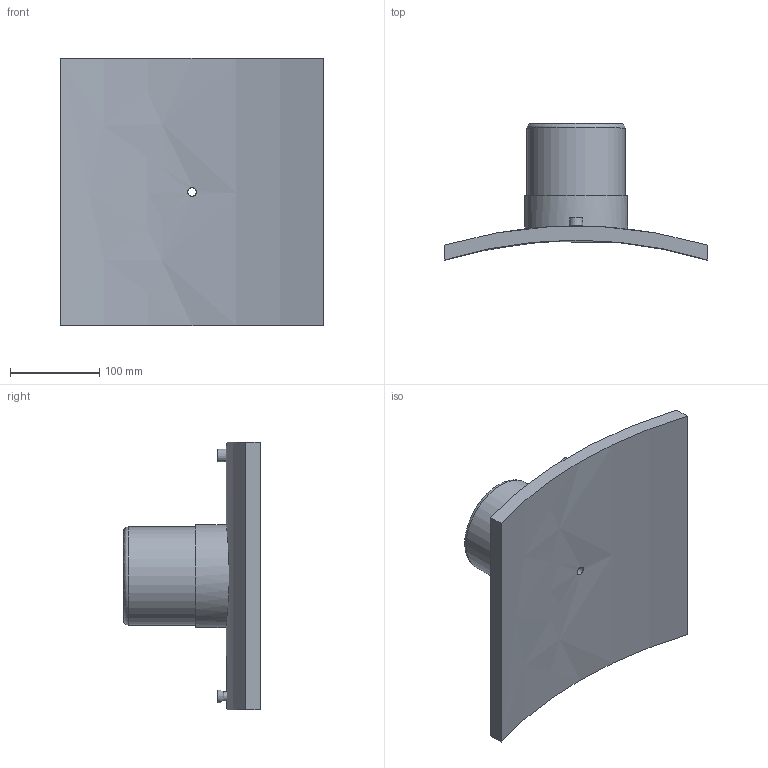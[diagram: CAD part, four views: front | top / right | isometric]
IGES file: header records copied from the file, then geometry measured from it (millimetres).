
Global section: file name: 4958031000110T.ipt; native system: Autodesk Inventor 2019; preprocessor: unknown; author: KIM; date: 20210225.094943; units: millimetre
Bounding box: 295 x 153.25 x 300 mm (x, y, z)
Volume: 1873302.9 mm3; surface area: 277992.8 mm2
Topology: 2 solids, 2 shells, 29 faces, 54 edges, 38 vertices
Faces by surface type: plane 13, revolution 7, cylinder 7, cone 2
Full cylindrical faces by diameter (mm): 4 x2, 16 x1, 110 x1, 115.5 x1
